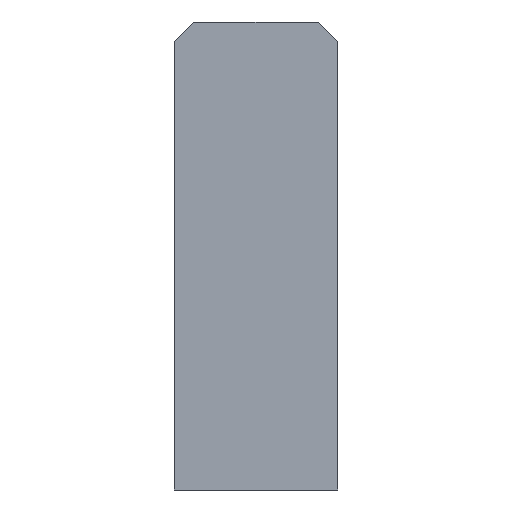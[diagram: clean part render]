
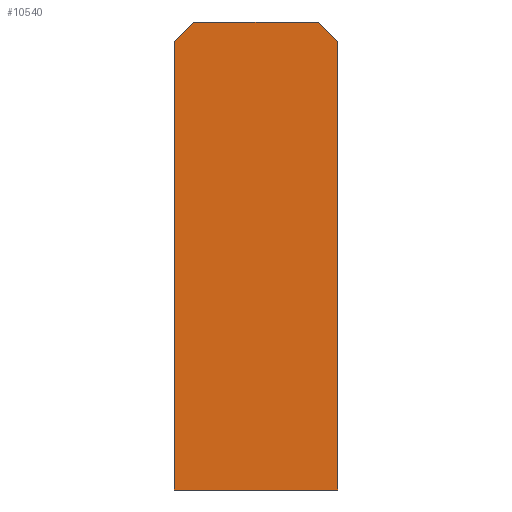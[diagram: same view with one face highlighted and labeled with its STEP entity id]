
A CAD part, left-side view. The second image highlights one B-rep face of the part: STEP entity #10540.
In plain terms, the highlighted planar face has unit normal (-1, 0, 0).
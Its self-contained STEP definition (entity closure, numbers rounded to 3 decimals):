
#1646=LINE('',#12727,#2001);
#1650=LINE('',#12734,#2005);
#1656=LINE('',#12746,#2011);
#1658=LINE('',#12750,#2013);
#1659=LINE('',#12753,#2014);
#1661=LINE('',#12756,#2016);
#2001=VECTOR('',#11749,1.768);
#2005=VECTOR('',#11755,8.);
#2011=VECTOR('',#11765,1.768);
#2013=VECTOR('',#11769,28.75);
#2014=VECTOR('',#11772,10.5);
#2016=VECTOR('',#11776,28.75);
#2480=FACE_OUTER_BOUND('',#3242,.T.);
#3242=EDGE_LOOP('',(#6608,#6609,#6610,#6611,#6612,#6613));
#4107=VERTEX_POINT('',#12724);
#4108=VERTEX_POINT('',#12726);
#4110=VERTEX_POINT('',#12732);
#4114=VERTEX_POINT('',#12744);
#4115=VERTEX_POINT('',#12748);
#4116=VERTEX_POINT('',#12752);
#4985=EDGE_CURVE('',#4107,#4108,#1646,.T.);
#4989=EDGE_CURVE('',#4110,#4107,#1650,.T.);
#4995=EDGE_CURVE('',#4114,#4110,#1656,.T.);
#4997=EDGE_CURVE('',#4115,#4114,#1658,.T.);
#4998=EDGE_CURVE('',#4116,#4115,#1659,.T.);
#5000=EDGE_CURVE('',#4108,#4116,#1661,.T.);
#6608=ORIENTED_EDGE('',*,*,#4985,.F.);
#6609=ORIENTED_EDGE('',*,*,#4989,.F.);
#6610=ORIENTED_EDGE('',*,*,#4995,.F.);
#6611=ORIENTED_EDGE('',*,*,#4997,.F.);
#6612=ORIENTED_EDGE('',*,*,#4998,.F.);
#6613=ORIENTED_EDGE('',*,*,#5000,.F.);
#9616=PLANE('',#11349);
#10540=ADVANCED_FACE('',(#2480),#9616,.F.);
#11349=AXIS2_PLACEMENT_3D('',#12757,#11777,#11778);
#11749=DIRECTION('',(0.,-0.707,-0.707));
#11755=DIRECTION('',(0.,-1.,0.));
#11765=DIRECTION('',(0.,-0.707,0.707));
#11769=DIRECTION('',(0.,0.,1.));
#11772=DIRECTION('',(0.,1.,0.));
#11776=DIRECTION('',(0.,0.,-1.));
#11777=DIRECTION('center_axis',(1.,0.,0.));
#11778=DIRECTION('ref_axis',(0.,-1.,0.));
#12724=CARTESIAN_POINT('',(-6.625,-4.,0.));
#12726=CARTESIAN_POINT('',(-6.625,-5.25,-1.25));
#12727=CARTESIAN_POINT('',(-6.625,-7.063,-3.063));
#12732=CARTESIAN_POINT('',(-6.625,4.,0.));
#12734=CARTESIAN_POINT('',(-6.625,5.25,0.));
#12744=CARTESIAN_POINT('',(-6.625,5.25,-1.25));
#12746=CARTESIAN_POINT('',(-6.625,7.062,-3.063));
#12748=CARTESIAN_POINT('',(-6.625,5.25,-30.));
#12750=CARTESIAN_POINT('',(-6.625,5.25,-30.));
#12752=CARTESIAN_POINT('',(-6.625,-5.25,-30.));
#12753=CARTESIAN_POINT('',(-6.625,-5.25,-30.));
#12756=CARTESIAN_POINT('',(-6.625,-5.25,0.));
#12757=CARTESIAN_POINT('Origin',(-6.625,0.,-15.));
